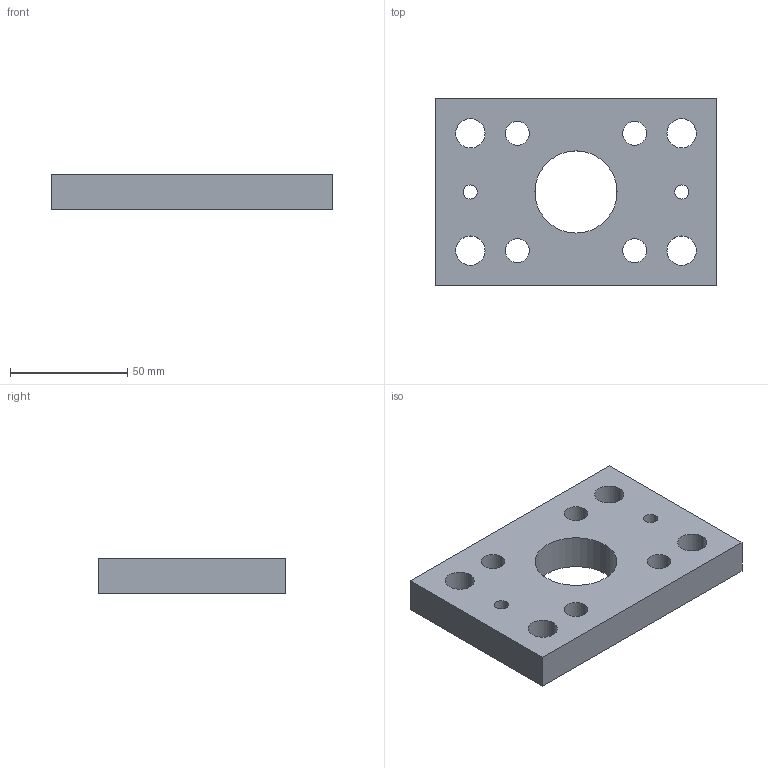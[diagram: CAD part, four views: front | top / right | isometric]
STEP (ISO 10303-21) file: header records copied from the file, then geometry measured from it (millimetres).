
FILE_DESCRIPTION (( 'STEP AP203' ), '1' );
FILE_NAME ('3DPS55.STEP', '2002-11-20T10:08:20', ( 'Francesc' ), ( 'propia' ), 'SwSTEP 2.0', 'SolidWorks 2001039', '' );
FILE_SCHEMA (( 'CONFIG_CONTROL_DESIGN' ));
Length unit declared in the file: millimetre
Products named in the file (1): 2
Bounding box: 120 x 80 x 15 mm (x, y, z)
Volume: 116454.2 mm3; surface area: 28020.9 mm2
Topology: 1 solids, 1 shells, 28 faces, 78 edges, 52 vertices
Faces by surface type: cylinder 22, plane 6
Entity records: 1047 total; most frequent: DIRECTION 180, CARTESIAN_POINT 159, ORIENTED_EDGE 156, EDGE_CURVE 78, AXIS2_PLACEMENT_3D 73, VERTEX_POINT 52, EDGE_LOOP 50, CIRCLE 44
